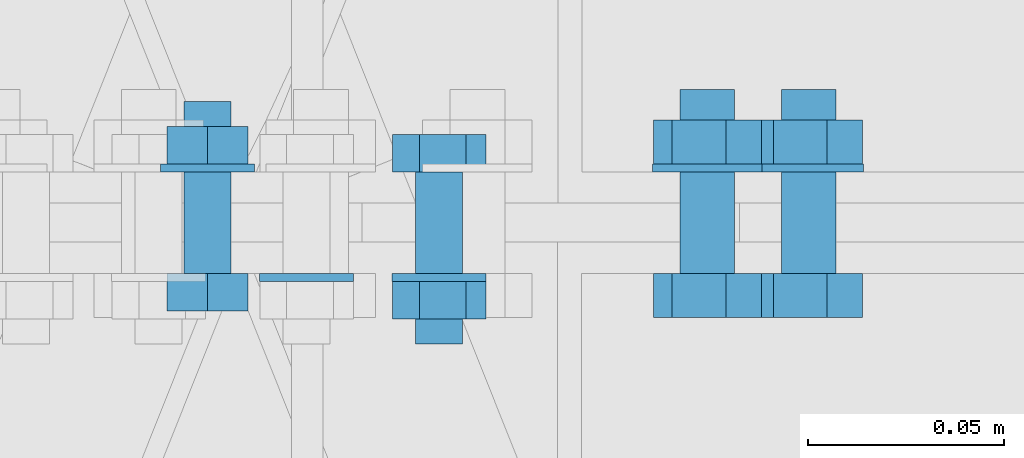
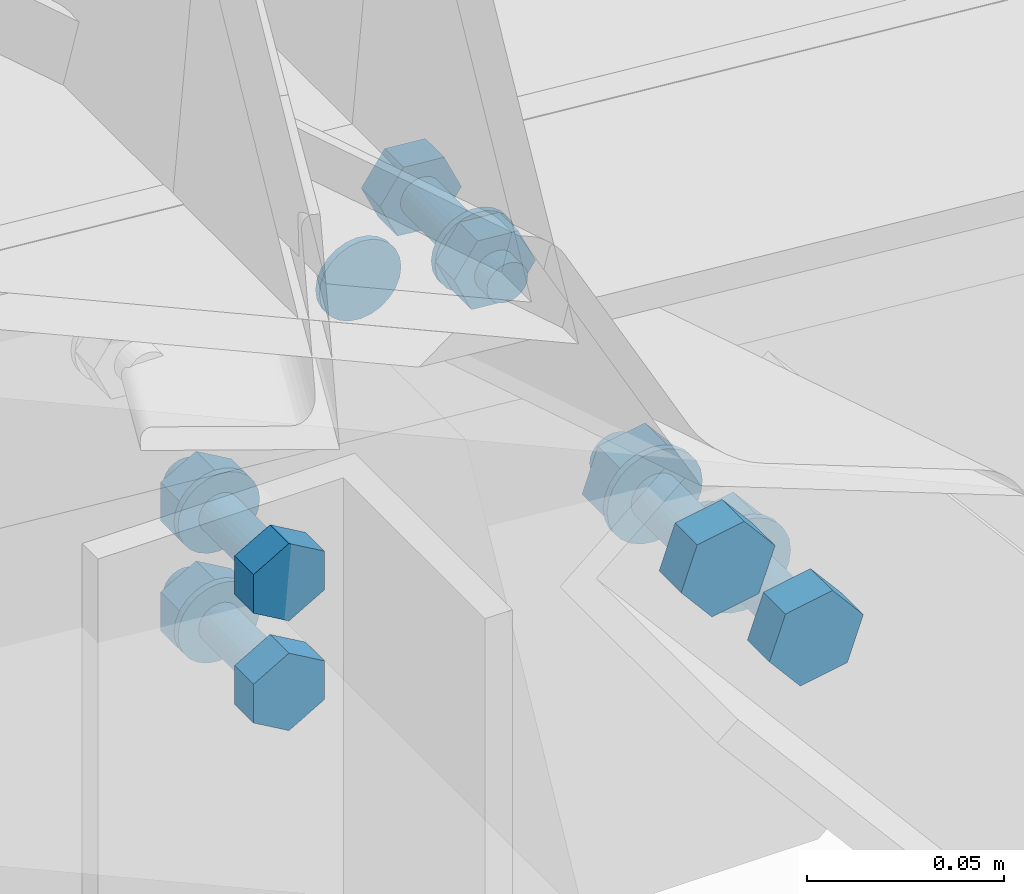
# One storey, part 109 of 251: 21 mechanical fasteners.
"""IFC4 building model written with IfcOpenShell, lengths in metres."""

from ifc_helpers import new_model, si_unit, frame, origin_with_axes, place, context, project, spatial, polyline, outline, extrude, type_object, element, save


model = new_model("IFC4")

# Units and contexts
model_context = context("Model", 3, precision=1e-05, world=origin_with_axes())
ifc_project = project(units=[si_unit("LENGTHUNIT", "METRE"), si_unit("AREAUNIT", "SQUARE_METRE"), si_unit("VOLUMEUNIT", "CUBIC_METRE"), si_unit("MASSUNIT", "GRAM", prefix="KILO"), si_unit("TIMEUNIT", "SECOND"), si_unit("PLANEANGLEUNIT", "RADIAN"), si_unit("SOLIDANGLEUNIT", "STERADIAN"), si_unit("THERMODYNAMICTEMPERATUREUNIT", "DEGREE_CELSIUS")], contexts=[model_context])

# Site, building, storey
placement_1 = place(None, origin_with_axes())
site = spatial("IfcSite", under=ifc_project, at=placement_1, Name="Italia", CompositionType="ELEMENT")
building = spatial("IfcBuilding", under=site, at=placement_1, Name="Deposito", CompositionType="ELEMENT")
storey = spatial("IfcBuildingStorey", under=building, at=placement_1, Name="Storey 0", CompositionType="ELEMENT", Elevation=0.0)

# Mechanical fasteners
mechanical_fastener_type_1 = type_object("IfcMechanicalFastenerType", Name="Reticolare 3", PredefinedType="BOLT")
placement_2 = place(placement_1, origin_with_axes())
mechanical_fastener_1_placement = place(placement_2, origin_with_axes())
element("IfcMechanicalFastener", 1, at=mechanical_fastener_1_placement, inside=storey, type_object=mechanical_fastener_type_1, Name="Reticolare 3", NominalDiameter=0.024, context=model_context, shape_type="SweptSolid", body=[
    extrude(outline(polyline([(0.0, 0.0), (-0.000408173, -0.00310564), (-0.00160599, -0.00600004), (-0.00351334, -0.00848532), (-0.00599861, -0.0103922), (-0.00889397, -0.011591), (-0.0119991, -0.0120001), (-0.0151043, -0.011591), (-0.0179996, -0.0103922), (-0.0204849, -0.00848532), (-0.0223923, -0.00600004), (-0.0235901, -0.00310564), (-0.0239983, 0.0), (-0.0235901, 0.00310564), (-0.0223923, 0.00600004), (-0.0204849, 0.00848532), (-0.0179996, 0.0103922), (-0.0151043, 0.011591), (-0.0119991, 0.0120001), (-0.00889397, 0.011591), (-0.00599861, 0.0103922), (-0.00351334, 0.00848532), (-0.00160599, 0.00600004), (-0.000408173, 0.00310564), (0.0, 0.0)])), frame((18.0139, 4.985, 6.16568), z_axis=(0.0, 1.0, 0.0), x_axis=(-1.0, 0.0, 0.0)), (0.0, 0.0, 1.0), 0.00199986),
])
mechanical_fastener_type_2 = type_object("IfcMechanicalFastenerType", Name="Reticolare 3", PredefinedType="BOLT")
mechanical_fastener_2_placement = place(placement_2, origin_with_axes())
element("IfcMechanicalFastener", 2, at=mechanical_fastener_2_placement, inside=storey, type_object=mechanical_fastener_type_2, Name="Reticolare 3", NominalDiameter=0.011999, context=model_context, shape_type="SweptSolid", body=[
    extrude(outline(polyline([(0.0, 0.0), (0.0119534, 0.0010457), (0.018837, -0.00878382), (0.0137653, -0.0196595), (0.00181007, -0.0207052), (-0.00507164, -0.0108757), (0.0, 0.0)])), frame((18.0667, 5.013, 6.17255), z_axis=(0.0, 1.0, 0.0), x_axis=(-1.0, 0.0, 0.0)), (0.0, 0.0, 1.0), 0.00960016),
])
mechanical_fastener_type_3 = type_object("IfcMechanicalFastenerType", Name="Reticolare 3", PredefinedType="BOLT")
mechanical_fastener_3_placement = place(placement_2, origin_with_axes())
element("IfcMechanicalFastener", 3, at=mechanical_fastener_3_placement, inside=storey, type_object=mechanical_fastener_type_3, Name="Reticolare 3", NominalDiameter=0.012, context=model_context, shape_type="SweptSolid", body=[
    extrude(outline(polyline([(0.0, 0.0), (-0.000204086, -0.00155306), (-0.000804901, -0.00299978), (-0.00175858, -0.00424242), (-0.00300026, -0.00519609), (-0.00444794, -0.00579548), (-0.00600052, -0.00600004), (-0.0075531, -0.00579548), (-0.00900078, -0.00519609), (-0.0102425, -0.00424242), (-0.0111961, -0.00299978), (-0.011797, -0.00155306), (-0.012001, 0.0), (-0.011797, 0.00155306), (-0.0111961, 0.00299978), (-0.0102425, 0.00424242), (-0.00900078, 0.00519609), (-0.0075531, 0.00579548), (-0.00600052, 0.00600004), (-0.00444794, 0.00579548), (-0.00300026, 0.00519609), (-0.00175858, 0.00424242), (-0.000804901, 0.00299978), (-0.000204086, 0.00155306), (0.0, 0.0)])), frame((18.0538, 4.969, 6.16272), z_axis=(0.0, 1.0, 0.0), x_axis=(-1.0, 0.0, 0.0)), (0.0, 0.0, 1.0), 0.0440001),
])
mechanical_fastener_type_4 = type_object("IfcMechanicalFastenerType", Name="Reticolare 3", PredefinedType="BOLT")
mechanical_fastener_4_placement = place(placement_2, origin_with_axes())
element("IfcMechanicalFastener", 4, at=mechanical_fastener_4_placement, inside=storey, type_object=mechanical_fastener_type_4, Name="Reticolare 3", NominalDiameter=0.011999, context=model_context, shape_type="SweptSolid", body=[
    extrude(outline(polyline([(0.0, 0.0), (0.0119534, 0.0010457), (0.018837, -0.00878382), (0.0137653, -0.0196595), (0.00181007, -0.0207052), (-0.00507164, -0.0108757), (0.0, 0.0)])), frame((18.0667, 4.9754, 6.17255), z_axis=(0.0, 1.0, 0.0), x_axis=(-1.0, 0.0, 0.0)), (0.0, 0.0, 1.0), 0.00960016),
])
mechanical_fastener_type_5 = type_object("IfcMechanicalFastenerType", Name="Reticolare 3", PredefinedType="BOLT")
mechanical_fastener_5_placement = place(placement_2, origin_with_axes())
element("IfcMechanicalFastener", 5, at=mechanical_fastener_5_placement, inside=storey, type_object=mechanical_fastener_type_5, Name="Reticolare 3", NominalDiameter=0.024, context=model_context, shape_type="SweptSolid", body=[
    extrude(outline(polyline([(0.0, 0.0), (-0.000408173, -0.00310564), (-0.00160599, -0.00600004), (-0.00351334, -0.00848532), (-0.00599861, -0.0103922), (-0.00889397, -0.011591), (-0.0119991, -0.0120001), (-0.0151043, -0.011591), (-0.0179996, -0.0103922), (-0.0204849, -0.00848532), (-0.0223923, -0.00600004), (-0.0235901, -0.00310564), (-0.0239983, 0.0), (-0.0235901, 0.00310564), (-0.0223923, 0.00600004), (-0.0204849, 0.00848532), (-0.0179996, 0.0103922), (-0.0151043, 0.011591), (-0.0119991, 0.0120001), (-0.00889397, 0.011591), (-0.00599861, 0.0103922), (-0.00351334, 0.00848532), (-0.00160599, 0.00600004), (-0.000408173, 0.00310564), (0.0, 0.0)])), frame((18.0478, 4.985, 6.16272), z_axis=(0.0, 1.0, 0.0), x_axis=(-1.0, 0.0, 0.0)), (0.0, 0.0, 1.0), 0.00199986),
])
mechanical_fastener_type_6 = type_object("IfcMechanicalFastenerType", Name="Reticolare 3", PredefinedType="BOLT")
mechanical_fastener_6_placement = place(placement_2, origin_with_axes())
element("IfcMechanicalFastener", 6, at=mechanical_fastener_6_placement, inside=storey, type_object=mechanical_fastener_type_6, Name="Reticolare 3", NominalDiameter=0.0120001, context=model_context, shape_type="SweptSolid", body=[
    extrude(outline(polyline([(0.0, 0.0), (0.0, -0.0120001), (-0.0103931, -0.0180001), (-0.0207863, -0.0120001), (-0.0207863, 0.0), (-0.0103931, 0.00600004), (0.0, 0.0)])), frame((18.011, 4.987, 6.09155), z_axis=(0.0, -1.0, 0.0), x_axis=(1.0, 0.0, 0.0)), (0.0, 0.0, 1.0), 0.00960016),
])
mechanical_fastener_type_7 = type_object("IfcMechanicalFastenerType", Name="Reticolare 3", PredefinedType="BOLT")
mechanical_fastener_7_placement = place(placement_2, origin_with_axes())
element("IfcMechanicalFastener", 7, at=mechanical_fastener_7_placement, inside=storey, type_object=mechanical_fastener_type_7, Name="Reticolare 3", NominalDiameter=0.012, context=model_context, shape_type="SweptSolid", body=[
    extrude(outline(polyline([(0.0, 0.0), (-0.000204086, -0.00155306), (-0.000804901, -0.00299978), (-0.00175858, -0.00424242), (-0.00300026, -0.00519609), (-0.00444794, -0.00579548), (-0.00600052, -0.00600004), (-0.0075531, -0.00579548), (-0.00900078, -0.00519609), (-0.0102425, -0.00424242), (-0.0111961, -0.00299978), (-0.011797, -0.00155306), (-0.012001, 0.0), (-0.011797, 0.00155306), (-0.0111961, 0.00299978), (-0.0102425, 0.00424242), (-0.00900078, 0.00519609), (-0.0075531, 0.00579548), (-0.00600052, 0.00600004), (-0.00444794, 0.00579548), (-0.00300026, 0.00519609), (-0.00175858, 0.00424242), (-0.000804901, 0.00299978), (-0.000204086, 0.00155306), (0.0, 0.0)])), frame((18.0066, 5.031, 6.08555), z_axis=(0.0, -1.0, 0.0), x_axis=(1.0, 0.0, 0.0)), (0.0, 0.0, 1.0), 0.0440001),
])
mechanical_fastener_type_8 = type_object("IfcMechanicalFastenerType", Name="Reticolare 3", PredefinedType="BOLT")
mechanical_fastener_8_placement = place(placement_2, origin_with_axes())
element("IfcMechanicalFastener", 8, at=mechanical_fastener_8_placement, inside=storey, type_object=mechanical_fastener_type_8, Name="Reticolare 3", NominalDiameter=0.0120001, context=model_context, shape_type="SweptSolid", body=[
    extrude(outline(polyline([(0.0, 0.0), (0.0, -0.0120001), (-0.0103931, -0.0180001), (-0.0207863, -0.0120001), (-0.0207863, 0.0), (-0.0103931, 0.00600004), (0.0, 0.0)])), frame((18.011, 5.0246, 6.09155), z_axis=(0.0, -1.0, 0.0), x_axis=(1.0, 0.0, 0.0)), (0.0, 0.0, 1.0), 0.00960016),
])
mechanical_fastener_type_9 = type_object("IfcMechanicalFastenerType", Name="Reticolare 3", PredefinedType="BOLT")
mechanical_fastener_9_placement = place(placement_2, origin_with_axes())
element("IfcMechanicalFastener", 9, at=mechanical_fastener_9_placement, inside=storey, type_object=mechanical_fastener_type_9, Name="Reticolare 3", NominalDiameter=0.024, context=model_context, shape_type="SweptSolid", body=[
    extrude(outline(polyline([(0.0, 0.0), (-0.000408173, -0.00310564), (-0.00160599, -0.00600004), (-0.00351334, -0.00848532), (-0.00599861, -0.0103922), (-0.00889397, -0.011591), (-0.0119991, -0.0120001), (-0.0151043, -0.011591), (-0.0179996, -0.0103922), (-0.0204849, -0.00848532), (-0.0223923, -0.00600004), (-0.0235901, -0.00310564), (-0.0239983, 0.0), (-0.0235901, 0.00310564), (-0.0223923, 0.00600004), (-0.0204849, 0.00848532), (-0.0179996, 0.0103922), (-0.0151043, 0.011591), (-0.0119991, 0.0120001), (-0.00889397, 0.011591), (-0.00599861, 0.0103922), (-0.00351334, 0.00848532), (-0.00160599, 0.00600004), (-0.000408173, 0.00310564), (0.0, 0.0)])), frame((18.0126, 5.015, 6.08555), z_axis=(0.0, -1.0, 0.0), x_axis=(1.0, 0.0, 0.0)), (0.0, 0.0, 1.0), 0.00199986),
])
mechanical_fastener_type_10 = type_object("IfcMechanicalFastenerType", Name="Reticolare 3", PredefinedType="BOLT")
mechanical_fastener_10_placement = place(placement_2, origin_with_axes())
element("IfcMechanicalFastener", 10, at=mechanical_fastener_10_placement, inside=storey, type_object=mechanical_fastener_type_10, Name="Reticolare 3", NominalDiameter=0.0120001, context=model_context, shape_type="SweptSolid", body=[
    extrude(outline(polyline([(0.0, 0.0), (0.0, -0.0120001), (-0.0103931, -0.0180001), (-0.0207863, -0.0120001), (-0.0207863, 0.0), (-0.0103931, 0.00600004), (0.0, 0.0)])), frame((18.011, 4.987, 6.05755), z_axis=(0.0, -1.0, 0.0), x_axis=(1.0, 0.0, 0.0)), (0.0, 0.0, 1.0), 0.00960016),
])
mechanical_fastener_type_11 = type_object("IfcMechanicalFastenerType", Name="Reticolare 3", PredefinedType="BOLT")
mechanical_fastener_11_placement = place(placement_2, origin_with_axes())
element("IfcMechanicalFastener", 11, at=mechanical_fastener_11_placement, inside=storey, type_object=mechanical_fastener_type_11, Name="Reticolare 3", NominalDiameter=0.012, context=model_context, shape_type="SweptSolid", body=[
    extrude(outline(polyline([(0.0, 0.0), (-0.000204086, -0.00155306), (-0.000804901, -0.00299978), (-0.00175858, -0.00424242), (-0.00300026, -0.00519609), (-0.00444794, -0.00579548), (-0.00600052, -0.00600004), (-0.0075531, -0.00579548), (-0.00900078, -0.00519609), (-0.0102425, -0.00424242), (-0.0111961, -0.00299978), (-0.011797, -0.00155306), (-0.012001, 0.0), (-0.011797, 0.00155306), (-0.0111961, 0.00299978), (-0.0102425, 0.00424242), (-0.00900078, 0.00519609), (-0.0075531, 0.00579548), (-0.00600052, 0.00600004), (-0.00444794, 0.00579548), (-0.00300026, 0.00519609), (-0.00175858, 0.00424242), (-0.000804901, 0.00299978), (-0.000204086, 0.00155306), (0.0, 0.0)])), frame((18.0066, 5.031, 6.05155), z_axis=(0.0, -1.0, 0.0), x_axis=(1.0, 0.0, 0.0)), (0.0, 0.0, 1.0), 0.0440001),
])
mechanical_fastener_type_12 = type_object("IfcMechanicalFastenerType", Name="Reticolare 3", PredefinedType="BOLT")
mechanical_fastener_12_placement = place(placement_2, origin_with_axes())
element("IfcMechanicalFastener", 12, at=mechanical_fastener_12_placement, inside=storey, type_object=mechanical_fastener_type_12, Name="Reticolare 3", NominalDiameter=0.0120001, context=model_context, shape_type="SweptSolid", body=[
    extrude(outline(polyline([(0.0, 0.0), (0.0, -0.0120001), (-0.0103931, -0.0180001), (-0.0207863, -0.0120001), (-0.0207863, 0.0), (-0.0103931, 0.00600004), (0.0, 0.0)])), frame((18.011, 5.0246, 6.05755), z_axis=(0.0, -1.0, 0.0), x_axis=(1.0, 0.0, 0.0)), (0.0, 0.0, 1.0), 0.00960016),
])
mechanical_fastener_type_13 = type_object("IfcMechanicalFastenerType", Name="Reticolare 3", PredefinedType="BOLT")
mechanical_fastener_13_placement = place(placement_2, origin_with_axes())
element("IfcMechanicalFastener", 13, at=mechanical_fastener_13_placement, inside=storey, type_object=mechanical_fastener_type_13, Name="Reticolare 3", NominalDiameter=0.024, context=model_context, shape_type="SweptSolid", body=[
    extrude(outline(polyline([(0.0, 0.0), (-0.000408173, -0.00310564), (-0.00160599, -0.00600004), (-0.00351334, -0.00848532), (-0.00599861, -0.0103922), (-0.00889397, -0.011591), (-0.0119991, -0.0120001), (-0.0151043, -0.011591), (-0.0179996, -0.0103922), (-0.0204849, -0.00848532), (-0.0223923, -0.00600004), (-0.0235901, -0.00310564), (-0.0239983, 0.0), (-0.0235901, 0.00310564), (-0.0223923, 0.00600004), (-0.0204849, 0.00848532), (-0.0179996, 0.0103922), (-0.0151043, 0.011591), (-0.0119991, 0.0120001), (-0.00889397, 0.011591), (-0.00599861, 0.0103922), (-0.00351334, 0.00848532), (-0.00160599, 0.00600004), (-0.000408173, 0.00310564), (0.0, 0.0)])), frame((18.0126, 5.015, 6.05155), z_axis=(0.0, -1.0, 0.0), x_axis=(1.0, 0.0, 0.0)), (0.0, 0.0, 1.0), 0.00199986),
])
mechanical_fastener_type_14 = type_object("IfcMechanicalFastenerType", Name="Reticolare 3", PredefinedType="BOLT")
mechanical_fastener_14_placement = place(placement_2, origin_with_axes())
element("IfcMechanicalFastener", 14, at=mechanical_fastener_14_placement, inside=storey, type_object=mechanical_fastener_type_14, Name="Reticolare 3", NominalDiameter=0.013999, context=model_context, shape_type="SweptSolid", body=[
    extrude(outline(polyline([(0.0, 0.0), (-0.009058, 0.0106759), (-0.00433922, 0.0238571), (0.00943375, 0.0263624), (0.0184898, 0.0156865), (0.013773, 0.0025053), (0.0, 0.0)])), frame((18.1237, 4.987, 6.03264), z_axis=(0.0, -1.0, 0.0), x_axis=(1.0, 0.0, 0.0)), (0.0, 0.0, 1.0), 0.0112),
])
mechanical_fastener_type_15 = type_object("IfcMechanicalFastenerType", Name="Reticolare 3", PredefinedType="BOLT")
mechanical_fastener_15_placement = place(placement_2, origin_with_axes())
element("IfcMechanicalFastener", 15, at=mechanical_fastener_15_placement, inside=storey, type_object=mechanical_fastener_type_15, Name="Reticolare 3", NominalDiameter=0.014, context=model_context, shape_type="SweptSolid", body=[
    extrude(outline(polyline([(0.0, 0.0), (-0.000238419, -0.0018115), (-0.000938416, -0.00349998), (-0.0020504, -0.00494957), (-0.00349998, -0.00606203), (-0.00518799, -0.00676155), (-0.00699997, -0.00699997), (-0.00881195, -0.00676155), (-0.0105, -0.00606203), (-0.0119495, -0.00494957), (-0.0130615, -0.00349998), (-0.0137615, -0.0018115), (-0.0139999, 0.0), (-0.0137615, 0.0018115), (-0.0130615, 0.00349998), (-0.0119495, 0.00494957), (-0.0105, 0.00606203), (-0.00881195, 0.00676155), (-0.00699997, 0.00699997), (-0.00518799, 0.00676155), (-0.00349998, 0.00606203), (-0.0020504, 0.00494957), (-0.000938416, 0.00349998), (-0.000238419, 0.0018115), (0.0, 0.0)])), frame((18.1354, 5.034, 6.04582), z_axis=(0.0, -1.0, 0.0), x_axis=(1.0, 0.0, 0.0)), (0.0, 0.0, 1.0), 0.0469999),
])
mechanical_fastener_type_16 = type_object("IfcMechanicalFastenerType", Name="Reticolare 3", PredefinedType="BOLT")
mechanical_fastener_16_placement = place(placement_2, origin_with_axes())
element("IfcMechanicalFastener", 16, at=mechanical_fastener_16_placement, inside=storey, type_object=mechanical_fastener_type_16, Name="Reticolare 3", NominalDiameter=0.013999, context=model_context, shape_type="SweptSolid", body=[
    extrude(outline(polyline([(0.0, 0.0), (-0.009058, 0.0106759), (-0.00433922, 0.0238571), (0.00943375, 0.0263624), (0.0184898, 0.0156865), (0.013773, 0.0025053), (0.0, 0.0)])), frame((18.1237, 5.0262, 6.03264), z_axis=(0.0, -1.0, 0.0), x_axis=(1.0, 0.0, 0.0)), (0.0, 0.0, 1.0), 0.0112),
])
mechanical_fastener_type_17 = type_object("IfcMechanicalFastenerType", Name="Reticolare 3", PredefinedType="BOLT")
mechanical_fastener_17_placement = place(placement_2, origin_with_axes())
element("IfcMechanicalFastener", 17, at=mechanical_fastener_17_placement, inside=storey, type_object=mechanical_fastener_type_17, Name="Reticolare 3", NominalDiameter=0.028, context=model_context, shape_type="SweptSolid", body=[
    extrude(outline(polyline([(0.0, 0.0), (-0.000476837, -0.00362349), (-0.00187492, -0.00699997), (-0.0041008, -0.00989962), (-0.00699997, -0.0121245), (-0.010376, -0.0135231), (-0.0139999, -0.0139999), (-0.0176239, -0.0135231), (-0.0209999, -0.0121245), (-0.0238991, -0.00989962), (-0.026125, -0.00699997), (-0.027523, -0.00362349), (-0.0279999, 0.0), (-0.027523, 0.00362349), (-0.026125, 0.00699997), (-0.0238991, 0.00989962), (-0.0209999, 0.0121245), (-0.0176239, 0.0135231), (-0.0139999, 0.0139999), (-0.010376, 0.0135231), (-0.00699997, 0.0121245), (-0.0041008, 0.00989962), (-0.00187492, 0.00699997), (-0.000476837, 0.00362349), (0.0, 0.0)])), frame((18.1424, 5.015, 6.04582), z_axis=(0.0, -1.0, 0.0), x_axis=(1.0, 0.0, 0.0)), (0.0, 0.0, 1.0), 0.00199986),
])
mechanical_fastener_type_18 = type_object("IfcMechanicalFastenerType", Name="Reticolare 3", PredefinedType="BOLT")
mechanical_fastener_18_placement = place(placement_2, origin_with_axes())
element("IfcMechanicalFastener", 18, at=mechanical_fastener_18_placement, inside=storey, type_object=mechanical_fastener_type_18, Name="Reticolare 3", NominalDiameter=0.0139996, context=model_context, shape_type="SweptSolid", body=[
    extrude(outline(polyline([(0.0, 0.0), (-0.00905609, 0.0106759), (-0.00433922, 0.0238571), (0.00943565, 0.0263624), (0.0184917, 0.0156865), (0.0137749, 0.0025053), (0.0, 0.0)])), frame((18.1496, 4.987, 6.00214), z_axis=(0.0, -1.0, 0.0), x_axis=(1.0, 0.0, 0.0)), (0.0, 0.0, 1.0), 0.0112),
])
mechanical_fastener_type_19 = type_object("IfcMechanicalFastenerType", Name="Reticolare 3", PredefinedType="BOLT")
mechanical_fastener_19_placement = place(placement_2, origin_with_axes())
element("IfcMechanicalFastener", 19, at=mechanical_fastener_19_placement, inside=storey, type_object=mechanical_fastener_type_19, Name="Reticolare 3", NominalDiameter=0.014, context=model_context, shape_type="SweptSolid", body=[
    extrude(outline(polyline([(0.0, 0.0), (-0.000238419, -0.0018115), (-0.000938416, -0.00349998), (-0.0020504, -0.00494957), (-0.00349998, -0.00606203), (-0.00518799, -0.00676155), (-0.00699997, -0.00699997), (-0.00881195, -0.00676155), (-0.0105, -0.00606203), (-0.0119495, -0.00494957), (-0.0130615, -0.00349998), (-0.0137615, -0.0018115), (-0.0139999, 0.0), (-0.0137615, 0.0018115), (-0.0130615, 0.00349998), (-0.0119495, 0.00494957), (-0.0105, 0.00606203), (-0.00881195, 0.00676155), (-0.00699997, 0.00699997), (-0.00518799, 0.00676155), (-0.00349998, 0.00606203), (-0.0020504, 0.00494957), (-0.000938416, 0.00349998), (-0.000238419, 0.0018115), (0.0, 0.0)])), frame((18.1613, 5.034, 6.01532), z_axis=(0.0, -1.0, 0.0), x_axis=(1.0, 0.0, 0.0)), (0.0, 0.0, 1.0), 0.0469999),
])
mechanical_fastener_type_20 = type_object("IfcMechanicalFastenerType", Name="Reticolare 3", PredefinedType="BOLT")
mechanical_fastener_20_placement = place(placement_2, origin_with_axes())
element("IfcMechanicalFastener", 20, at=mechanical_fastener_20_placement, inside=storey, type_object=mechanical_fastener_type_20, Name="Reticolare 3", NominalDiameter=0.0139996, context=model_context, shape_type="SweptSolid", body=[
    extrude(outline(polyline([(0.0, 0.0), (-0.00905609, 0.0106759), (-0.00433922, 0.0238571), (0.00943565, 0.0263624), (0.0184917, 0.0156865), (0.0137749, 0.0025053), (0.0, 0.0)])), frame((18.1496, 5.0262, 6.00214), z_axis=(0.0, -1.0, 0.0), x_axis=(1.0, 0.0, 0.0)), (0.0, 0.0, 1.0), 0.0112),
])
mechanical_fastener_type_21 = type_object("IfcMechanicalFastenerType", Name="Reticolare 3", PredefinedType="BOLT")
mechanical_fastener_21_placement = place(placement_2, origin_with_axes())
element("IfcMechanicalFastener", 21, at=mechanical_fastener_21_placement, inside=storey, type_object=mechanical_fastener_type_21, Name="Reticolare 3", NominalDiameter=0.028, context=model_context, shape_type="SweptSolid", body=[
    extrude(outline(polyline([(0.0, 0.0), (-0.000476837, -0.00362349), (-0.00187492, -0.00699997), (-0.0041008, -0.00989962), (-0.00699997, -0.0121245), (-0.010376, -0.0135231), (-0.0139999, -0.0139999), (-0.0176239, -0.0135231), (-0.0209999, -0.0121245), (-0.0238991, -0.00989962), (-0.026125, -0.00699997), (-0.027523, -0.00362349), (-0.0279999, 0.0), (-0.027523, 0.00362349), (-0.026125, 0.00699997), (-0.0238991, 0.00989962), (-0.0209999, 0.0121245), (-0.0176239, 0.0135231), (-0.0139999, 0.0139999), (-0.010376, 0.0135231), (-0.00699997, 0.0121245), (-0.0041008, 0.00989962), (-0.00187492, 0.00699997), (-0.000476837, 0.00362349), (0.0, 0.0)])), frame((18.1683, 5.015, 6.01532), z_axis=(0.0, -1.0, 0.0), x_axis=(1.0, 0.0, 0.0)), (0.0, 0.0, 1.0), 0.00199986),
])

save(model, "model.ifc")
